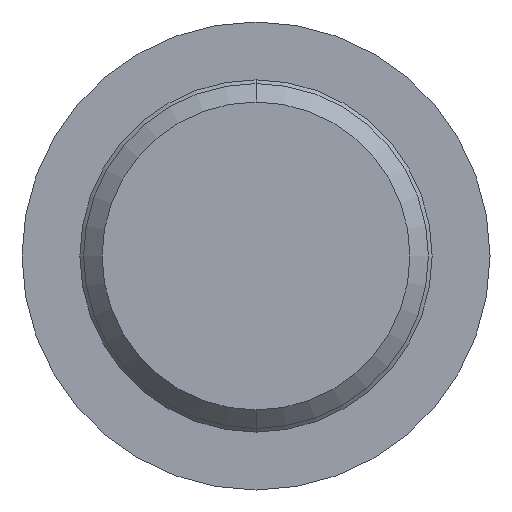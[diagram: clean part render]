
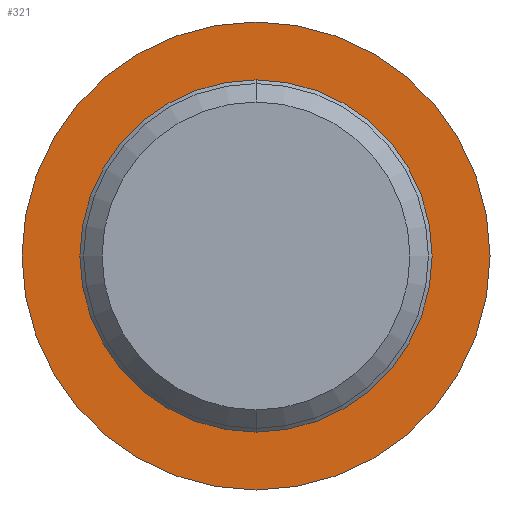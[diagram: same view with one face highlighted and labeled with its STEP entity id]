
A CAD part, front view. The second image highlights one B-rep face of the part: STEP entity #321.
In plain terms, the highlighted planar face has unit normal (0, -1, 0).
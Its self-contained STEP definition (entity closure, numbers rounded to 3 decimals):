
#4 = VERTEX_POINT ( 'NONE', #34 ) ;
#21 = DIRECTION ( 'NONE',  ( 0., 1., 0. ) ) ;
#34 = CARTESIAN_POINT ( 'NONE',  ( 0., 12., 7.15 ) ) ;
#56 = ORIENTED_EDGE ( 'NONE', *, *, #514, .T. ) ;
#73 = CARTESIAN_POINT ( 'NONE',  ( 0., 12., 0. ) ) ;
#79 = CIRCLE ( 'NONE', #622, 9.5 ) ;
#87 = EDGE_LOOP ( 'NONE', ( #683, #56 ) ) ;
#111 = CARTESIAN_POINT ( 'NONE',  ( 0., 12., 0. ) ) ;
#149 = FACE_BOUND ( 'NONE', #87, .T. ) ;
#188 = EDGE_CURVE ( 'NONE', #4, #690, #329, .T. ) ;
#220 = DIRECTION ( 'NONE',  ( 0., 0., 1. ) ) ;
#236 = VERTEX_POINT ( 'NONE', #451 ) ;
#273 = FACE_OUTER_BOUND ( 'NONE', #286, .T. ) ;
#286 = EDGE_LOOP ( 'NONE', ( #379, #649 ) ) ;
#303 = DIRECTION ( 'NONE',  ( 0., 0., 1. ) ) ;
#321 = ADVANCED_FACE ( 'NONE', ( #273, #149 ), #562, .F. ) ;
#329 = CIRCLE ( 'NONE', #619, 7.15 ) ;
#360 = CARTESIAN_POINT ( 'NONE',  ( 0., 12., -9.5 ) ) ;
#370 = CIRCLE ( 'NONE', #509, 7.15 ) ;
#371 = EDGE_CURVE ( 'NONE', #614, #236, #412, .T. ) ;
#379 = ORIENTED_EDGE ( 'NONE', *, *, #747, .F. ) ;
#386 = CARTESIAN_POINT ( 'NONE',  ( 9.5, 12., 0. ) ) ;
#403 = AXIS2_PLACEMENT_3D ( 'NONE', #453, #409, #749 ) ;
#409 = DIRECTION ( 'NONE',  ( 0., 1., 0. ) ) ;
#412 = CIRCLE ( 'NONE', #403, 9.5 ) ;
#451 = CARTESIAN_POINT ( 'NONE',  ( 0., 12., 9.5 ) ) ;
#453 = CARTESIAN_POINT ( 'NONE',  ( 0., 12., 0. ) ) ;
#461 = DIRECTION ( 'NONE',  ( 0., 1., 0. ) ) ;
#509 = AXIS2_PLACEMENT_3D ( 'NONE', #696, #758, #639 ) ;
#514 = EDGE_CURVE ( 'NONE', #690, #4, #370, .T. ) ;
#562 = PLANE ( 'NONE',  #569 ) ;
#569 = AXIS2_PLACEMENT_3D ( 'NONE', #386, #21, #613 ) ;
#590 = DIRECTION ( 'NONE',  ( 0., 1., 0. ) ) ;
#613 = DIRECTION ( 'NONE',  ( 0., 0., 1. ) ) ;
#614 = VERTEX_POINT ( 'NONE', #360 ) ;
#619 = AXIS2_PLACEMENT_3D ( 'NONE', #73, #590, #303 ) ;
#622 = AXIS2_PLACEMENT_3D ( 'NONE', #111, #461, #220 ) ;
#639 = DIRECTION ( 'NONE',  ( 0., 0., 1. ) ) ;
#649 = ORIENTED_EDGE ( 'NONE', *, *, #371, .F. ) ;
#683 = ORIENTED_EDGE ( 'NONE', *, *, #188, .T. ) ;
#690 = VERTEX_POINT ( 'NONE', #722 ) ;
#696 = CARTESIAN_POINT ( 'NONE',  ( 0., 12., 0. ) ) ;
#722 = CARTESIAN_POINT ( 'NONE',  ( 0., 12., -7.15 ) ) ;
#747 = EDGE_CURVE ( 'NONE', #236, #614, #79, .T. ) ;
#749 = DIRECTION ( 'NONE',  ( 0., 0., 1. ) ) ;
#758 = DIRECTION ( 'NONE',  ( 0., 1., 0. ) ) ;
